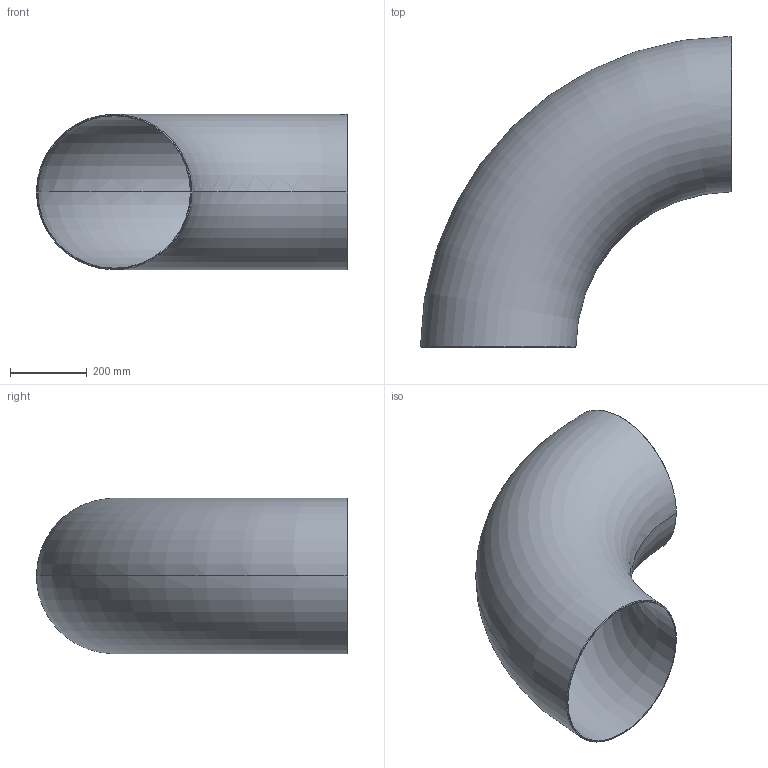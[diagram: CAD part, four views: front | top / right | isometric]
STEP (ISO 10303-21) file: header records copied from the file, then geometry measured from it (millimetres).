
FILE_DESCRIPTION (( 'STEP AP203' ), '1' );
FILE_NAME ('OT200-400-406_4x4_OSTP.step', '2020-12-16T03:09:47', ( '' ), ( '' ), 'SwSTEP 2.0', 'SolidWorks 2014', '' );
FILE_SCHEMA (( 'CONFIG_CONTROL_DESIGN' ));
Length unit declared in the file: millimetre
Products named in the file (1): OT200-400-406_4x4_OSTP
Bounding box: 813.2 x 813.2 x 406.21 mm (x, y, z)
Volume: 4832418.3 mm3; surface area: 2429446.2 mm2
Topology: 1 solids, 1 shells, 10 faces, 20 edges, 12 vertices
Faces by surface type: torus 4, cone 4, plane 2
Entity records: 634 total; most frequent: CARTESIAN_POINT 340, DIRECTION 50, ORIENTED_EDGE 40, AXIS2_PLACEMENT_3D 23, EDGE_CURVE 20, EDGE_LOOP 12, VERTEX_POINT 12, CIRCLE 12
